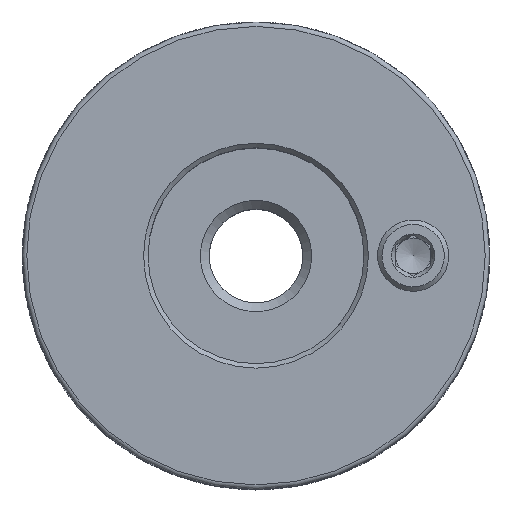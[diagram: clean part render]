
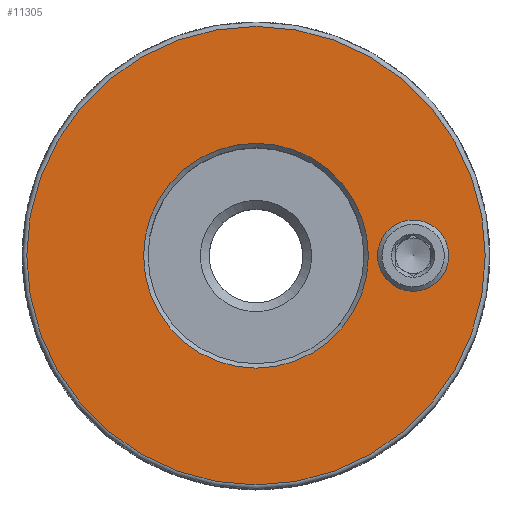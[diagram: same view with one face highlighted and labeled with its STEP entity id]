
A CAD part, top view. The second image highlights one B-rep face of the part: STEP entity #11305.
In plain terms, the highlighted planar face has unit normal (0, 0, 1).
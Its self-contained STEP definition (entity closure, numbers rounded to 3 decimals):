
#451=PLANE('',#12517);
#5801=ORIENTED_EDGE('',*,*,#7547,.T.);
#5802=ORIENTED_EDGE('',*,*,#7548,.T.);
#5803=ORIENTED_EDGE('',*,*,#7549,.T.);
#7547=EDGE_CURVE('',#8675,#8675,#9120,.F.);
#7548=EDGE_CURVE('',#8676,#8676,#9121,.T.);
#7549=EDGE_CURVE('',#8677,#8677,#9122,.T.);
#8675=VERTEX_POINT('',#19218);
#8676=VERTEX_POINT('',#19220);
#8677=VERTEX_POINT('',#19222);
#9120=CIRCLE('',#12518,51.5);
#9121=CIRCLE('',#12519,25.25);
#9122=CIRCLE('',#12520,8.);
#9739=EDGE_LOOP('',(#5801));
#9740=EDGE_LOOP('',(#5802));
#9741=EDGE_LOOP('',(#5803));
#10443=FACE_BOUND('',#9739,.T.);
#10444=FACE_BOUND('',#9740,.T.);
#10445=FACE_BOUND('',#9741,.T.);
#11305=ADVANCED_FACE('',(#10443,#10444,#10445),#451,.F.);
#12517=AXIS2_PLACEMENT_3D('',#19216,#15557,#15558);
#12518=AXIS2_PLACEMENT_3D('',#19217,#15559,#15560);
#12519=AXIS2_PLACEMENT_3D('',#19219,#15561,#15562);
#12520=AXIS2_PLACEMENT_3D('',#19221,#15563,#15564);
#15557=DIRECTION('',(0.,0.,-1.));
#15558=DIRECTION('',(-1.,0.,0.));
#15559=DIRECTION('',(0.,0.,-1.));
#15560=DIRECTION('',(-1.,0.,0.));
#15561=DIRECTION('',(0.,0.,-1.));
#15562=DIRECTION('',(-1.,0.,0.));
#15563=DIRECTION('',(0.,0.,-1.));
#15564=DIRECTION('',(-1.,0.,0.));
#19216=CARTESIAN_POINT('',(52.5,0.,44.));
#19217=CARTESIAN_POINT('',(0.,0.,44.));
#19218=CARTESIAN_POINT('',(-51.5,0.,44.));
#19219=CARTESIAN_POINT('',(0.,0.,44.));
#19220=CARTESIAN_POINT('',(-25.25,0.,44.));
#19221=CARTESIAN_POINT('',(35.3,0.,44.));
#19222=CARTESIAN_POINT('',(27.3,0.,44.));
